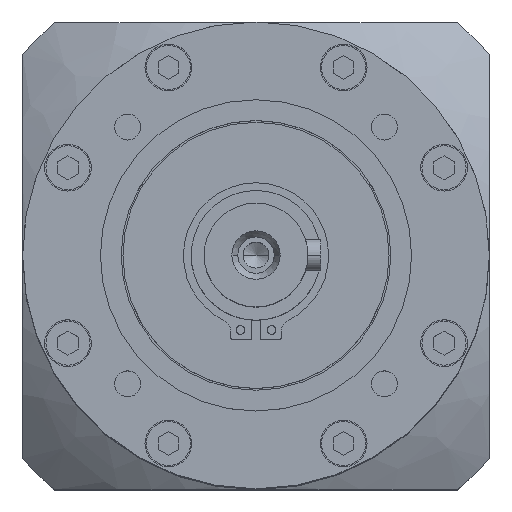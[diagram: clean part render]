
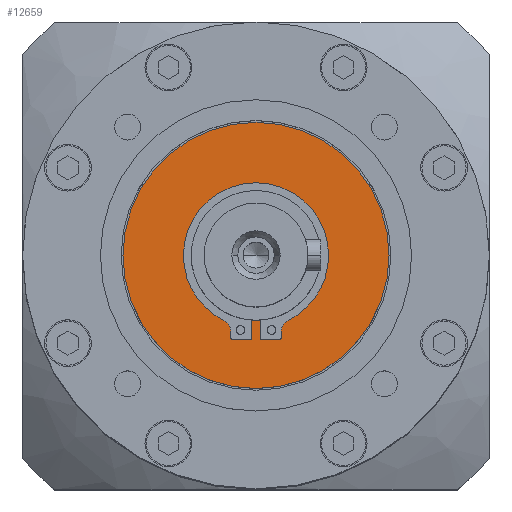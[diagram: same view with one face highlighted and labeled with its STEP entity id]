
A CAD part, top view. The second image highlights one B-rep face of the part: STEP entity #12659.
In plain terms, the highlighted planar face has unit normal (0, 0, 1).
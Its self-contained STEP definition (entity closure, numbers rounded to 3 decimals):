
#207 = DIRECTION ( 'NONE',  ( -1., 0., 0. ) ) ;
#230 = DIRECTION ( 'NONE',  ( 0., 0., 1. ) ) ;
#256 = CARTESIAN_POINT ( 'NONE',  ( 0., 0., -2.5 ) ) ;
#1039 = VECTOR ( 'NONE', #21372, 1000. ) ;
#1166 = CARTESIAN_POINT ( 'NONE',  ( 0.85, -12.471, -2.5 ) ) ;
#2021 = ORIENTED_EDGE ( 'NONE', *, *, #21670, .F. ) ;
#2248 = DIRECTION ( 'NONE',  ( -1., 0., 0. ) ) ;
#2267 = DIRECTION ( 'NONE',  ( 0., 0., -1. ) ) ;
#2303 = CARTESIAN_POINT ( 'NONE',  ( 0., 0., -2.5 ) ) ;
#2343 = EDGE_CURVE ( 'NONE', #19230, #16718, #24108, .T. ) ;
#2475 = ORIENTED_EDGE ( 'NONE', *, *, #16109, .F. ) ;
#2510 = AXIS2_PLACEMENT_3D ( 'NONE', #5672, #5606, #5578 ) ;
#2705 = CARTESIAN_POINT ( 'NONE',  ( 4.85, -14.773, -2.5 ) ) ;
#2994 = DIRECTION ( 'NONE',  ( 0., -1., 0. ) ) ;
#3018 = CARTESIAN_POINT ( 'NONE',  ( -4.85, 0., -2.5 ) ) ;
#3093 = AXIS2_PLACEMENT_3D ( 'NONE', #17090, #4187, #19191 ) ;
#4064 = CIRCLE ( 'NONE', #22330, 14. ) ;
#4169 = AXIS2_PLACEMENT_3D ( 'NONE', #24300, #23949, #23861 ) ;
#4187 = DIRECTION ( 'NONE',  ( 0., 0., 1. ) ) ;
#4479 = CARTESIAN_POINT ( 'NONE',  ( 14., 0., -2.5 ) ) ;
#5183 = EDGE_CURVE ( 'NONE', #7561, #22983, #5241, .T. ) ;
#5241 = CIRCLE ( 'NONE', #21324, 12.5 ) ;
#5305 = AXIS2_PLACEMENT_3D ( 'NONE', #6951, #6945, #6906 ) ;
#5563 = DIRECTION ( 'NONE',  ( -1., 0., 0. ) ) ;
#5578 = DIRECTION ( 'NONE',  ( -1., 0., 0. ) ) ;
#5606 = DIRECTION ( 'NONE',  ( 0., 0., -1. ) ) ;
#5653 = DIRECTION ( 'NONE',  ( 0., 0., 1. ) ) ;
#5668 = EDGE_CURVE ( 'NONE', #16718, #19230, #25592, .T. ) ;
#5672 = CARTESIAN_POINT ( 'NONE',  ( 0., 0., -2.5 ) ) ;
#5680 = CARTESIAN_POINT ( 'NONE',  ( 4.35, -15.771, -2.5 ) ) ;
#5878 = PLANE ( 'NONE',  #2510 ) ;
#6031 = ORIENTED_EDGE ( 'NONE', *, *, #5668, .F. ) ;
#6886 = ORIENTED_EDGE ( 'NONE', *, *, #13986, .F. ) ;
#6906 = DIRECTION ( 'NONE',  ( -1., 0., 0. ) ) ;
#6945 = DIRECTION ( 'NONE',  ( 0., 0., -1. ) ) ;
#6951 = CARTESIAN_POINT ( 'NONE',  ( 7.35, -14.773, -2.5 ) ) ;
#7105 = DIRECTION ( 'NONE',  ( 0., 1., 0. ) ) ;
#7214 = CARTESIAN_POINT ( 'NONE',  ( -7.35, -14.773, -2.5 ) ) ;
#7244 = DIRECTION ( 'NONE',  ( 0., 0., -1. ) ) ;
#7248 = DIRECTION ( 'NONE',  ( -1., 0., 0. ) ) ;
#7355 = CARTESIAN_POINT ( 'NONE',  ( -14., 0., -2.5 ) ) ;
#7398 = VERTEX_POINT ( 'NONE', #10288 ) ;
#7542 = EDGE_LOOP ( 'NONE', ( #12642, #2021, #24411, #25770, #26429, #20452, #16742, #2475, #7883, #21154, #18662, #13799, #6886, #22210 ) ) ;
#7561 = VERTEX_POINT ( 'NONE', #8048 ) ;
#7883 = ORIENTED_EDGE ( 'NONE', *, *, #15049, .F. ) ;
#7902 = VERTEX_POINT ( 'NONE', #4479 ) ;
#8048 = CARTESIAN_POINT ( 'NONE',  ( -0.85, -12.471, -2.5 ) ) ;
#8234 = LINE ( 'NONE', #12195, #13983 ) ;
#8572 = VECTOR ( 'NONE', #7105, 1000. ) ;
#8834 = CARTESIAN_POINT ( 'NONE',  ( -25.652, 0., -2.5 ) ) ;
#9084 = LINE ( 'NONE', #20053, #14549 ) ;
#9140 = DIRECTION ( 'NONE',  ( -1., 0., 0. ) ) ;
#9176 = DIRECTION ( 'NONE',  ( 0., 0., 1. ) ) ;
#9185 = CARTESIAN_POINT ( 'NONE',  ( 0., 0., -2.5 ) ) ;
#9859 = VERTEX_POINT ( 'NONE', #10515 ) ;
#10288 = CARTESIAN_POINT ( 'NONE',  ( 0.85, -16.271, -2.5 ) ) ;
#10515 = CARTESIAN_POINT ( 'NONE',  ( -6.236, -12.534, -2.5 ) ) ;
#11230 = VERTEX_POINT ( 'NONE', #25516 ) ;
#11313 = CARTESIAN_POINT ( 'NONE',  ( 6.236, -12.534, -2.5 ) ) ;
#11355 = DIRECTION ( 'NONE',  ( -1., 0., 0. ) ) ;
#11539 = DIRECTION ( 'NONE',  ( 0., 0., 1. ) ) ;
#11544 = CARTESIAN_POINT ( 'NONE',  ( 0., 0., -2.5 ) ) ;
#11736 = AXIS2_PLACEMENT_3D ( 'NONE', #5680, #5653, #5563 ) ;
#12127 = ORIENTED_EDGE ( 'NONE', *, *, #2343, .F. ) ;
#12155 = VERTEX_POINT ( 'NONE', #13047 ) ;
#12195 = CARTESIAN_POINT ( 'NONE',  ( 0., -16.271, -2.5 ) ) ;
#12289 = DIRECTION ( 'NONE',  ( 1., 0., 0. ) ) ;
#12642 = ORIENTED_EDGE ( 'NONE', *, *, #22536, .F. ) ;
#12659 = ADVANCED_FACE ( 'NONE', ( #13569, #16508 ), #5878, .F. ) ;
#13047 = CARTESIAN_POINT ( 'NONE',  ( -4.35, -16.271, -2.5 ) ) ;
#13094 = AXIS2_PLACEMENT_3D ( 'NONE', #2303, #2267, #2248 ) ;
#13226 = VERTEX_POINT ( 'NONE', #15926 ) ;
#13258 = CIRCLE ( 'NONE', #5305, 2.5 ) ;
#13569 = FACE_OUTER_BOUND ( 'NONE', #21236, .T. ) ;
#13799 = ORIENTED_EDGE ( 'NONE', *, *, #5183, .F. ) ;
#13983 = VECTOR ( 'NONE', #12289, 1000. ) ;
#13986 = EDGE_CURVE ( 'NONE', #19423, #7561, #15196, .T. ) ;
#14085 = VECTOR ( 'NONE', #14668, 1000. ) ;
#14107 = EDGE_CURVE ( 'NONE', #22983, #7398, #9084, .T. ) ;
#14108 = VECTOR ( 'NONE', #2994, 1000. ) ;
#14427 = VERTEX_POINT ( 'NONE', #15939 ) ;
#14532 = EDGE_CURVE ( 'NONE', #7398, #11230, #18419, .T. ) ;
#14549 = VECTOR ( 'NONE', #19907, 1000. ) ;
#14668 = DIRECTION ( 'NONE',  ( 1., 0., 0. ) ) ;
#14708 = CARTESIAN_POINT ( 'NONE',  ( 0., -16.271, -2.5 ) ) ;
#15049 = EDGE_CURVE ( 'NONE', #11230, #14427, #16740, .T. ) ;
#15196 = LINE ( 'NONE', #21590, #1039 ) ;
#15926 = CARTESIAN_POINT ( 'NONE',  ( -4.85, -15.771, -2.5 ) ) ;
#15939 = CARTESIAN_POINT ( 'NONE',  ( 4.85, -15.771, -2.5 ) ) ;
#16109 = EDGE_CURVE ( 'NONE', #14427, #23451, #18986, .T. ) ;
#16508 = FACE_BOUND ( 'NONE', #7542, .T. ) ;
#16718 = VERTEX_POINT ( 'NONE', #19686 ) ;
#16740 = CIRCLE ( 'NONE', #11736, 0.5 ) ;
#16742 = ORIENTED_EDGE ( 'NONE', *, *, #17518, .F. ) ;
#17090 = CARTESIAN_POINT ( 'NONE',  ( 0., 0., -2.5 ) ) ;
#17147 = CIRCLE ( 'NONE', #25669, 14. ) ;
#17261 = VERTEX_POINT ( 'NONE', #11313 ) ;
#17270 = AXIS2_PLACEMENT_3D ( 'NONE', #7214, #7244, #7248 ) ;
#17518 = EDGE_CURVE ( 'NONE', #23451, #17261, #13258, .T. ) ;
#18036 = EDGE_CURVE ( 'NONE', #17261, #7902, #4064, .T. ) ;
#18419 = LINE ( 'NONE', #14708, #14085 ) ;
#18662 = ORIENTED_EDGE ( 'NONE', *, *, #14107, .F. ) ;
#18986 = LINE ( 'NONE', #22004, #8572 ) ;
#19163 = EDGE_CURVE ( 'NONE', #9859, #27415, #20404, .T. ) ;
#19191 = DIRECTION ( 'NONE',  ( -1., 0., 0. ) ) ;
#19230 = VERTEX_POINT ( 'NONE', #8834 ) ;
#19264 = AXIS2_PLACEMENT_3D ( 'NONE', #25986, #25965, #25928 ) ;
#19423 = VERTEX_POINT ( 'NONE', #20516 ) ;
#19686 = CARTESIAN_POINT ( 'NONE',  ( 25.652, 0., -2.5 ) ) ;
#19907 = DIRECTION ( 'NONE',  ( 0., -1., 0. ) ) ;
#20053 = CARTESIAN_POINT ( 'NONE',  ( 0.85, 0., -2.5 ) ) ;
#20404 = CIRCLE ( 'NONE', #17270, 2.5 ) ;
#20452 = ORIENTED_EDGE ( 'NONE', *, *, #18036, .F. ) ;
#20516 = CARTESIAN_POINT ( 'NONE',  ( -0.85, -16.271, -2.5 ) ) ;
#21154 = ORIENTED_EDGE ( 'NONE', *, *, #14532, .F. ) ;
#21236 = EDGE_LOOP ( 'NONE', ( #12127, #6031 ) ) ;
#21324 = AXIS2_PLACEMENT_3D ( 'NONE', #11544, #11539, #11355 ) ;
#21326 = EDGE_CURVE ( 'NONE', #25999, #9859, #17147, .T. ) ;
#21372 = DIRECTION ( 'NONE',  ( 0., 1., 0. ) ) ;
#21590 = CARTESIAN_POINT ( 'NONE',  ( -0.85, 0., -2.5 ) ) ;
#21670 = EDGE_CURVE ( 'NONE', #27415, #13226, #25283, .T. ) ;
#22004 = CARTESIAN_POINT ( 'NONE',  ( 4.85, 0., -2.5 ) ) ;
#22210 = ORIENTED_EDGE ( 'NONE', *, *, #23295, .F. ) ;
#22330 = AXIS2_PLACEMENT_3D ( 'NONE', #256, #230, #207 ) ;
#22536 = EDGE_CURVE ( 'NONE', #13226, #12155, #27103, .T. ) ;
#22594 = CIRCLE ( 'NONE', #3093, 14. ) ;
#22983 = VERTEX_POINT ( 'NONE', #1166 ) ;
#23295 = EDGE_CURVE ( 'NONE', #12155, #19423, #8234, .T. ) ;
#23451 = VERTEX_POINT ( 'NONE', #2705 ) ;
#23861 = DIRECTION ( 'NONE',  ( -1., 0., 0. ) ) ;
#23949 = DIRECTION ( 'NONE',  ( 0., 0., 1. ) ) ;
#24108 = CIRCLE ( 'NONE', #19264, 25.652 ) ;
#24300 = CARTESIAN_POINT ( 'NONE',  ( -4.35, -15.771, -2.5 ) ) ;
#24411 = ORIENTED_EDGE ( 'NONE', *, *, #19163, .F. ) ;
#24914 = CARTESIAN_POINT ( 'NONE',  ( -4.85, -14.773, -2.5 ) ) ;
#25283 = LINE ( 'NONE', #3018, #14108 ) ;
#25516 = CARTESIAN_POINT ( 'NONE',  ( 4.35, -16.271, -2.5 ) ) ;
#25592 = CIRCLE ( 'NONE', #13094, 25.652 ) ;
#25669 = AXIS2_PLACEMENT_3D ( 'NONE', #9185, #9176, #9140 ) ;
#25770 = ORIENTED_EDGE ( 'NONE', *, *, #21326, .F. ) ;
#25928 = DIRECTION ( 'NONE',  ( -1., 0., 0. ) ) ;
#25965 = DIRECTION ( 'NONE',  ( 0., 0., -1. ) ) ;
#25986 = CARTESIAN_POINT ( 'NONE',  ( 0., 0., -2.5 ) ) ;
#25999 = VERTEX_POINT ( 'NONE', #7355 ) ;
#26429 = ORIENTED_EDGE ( 'NONE', *, *, #26467, .F. ) ;
#26467 = EDGE_CURVE ( 'NONE', #7902, #25999, #22594, .T. ) ;
#27103 = CIRCLE ( 'NONE', #4169, 0.5 ) ;
#27415 = VERTEX_POINT ( 'NONE', #24914 ) ;
